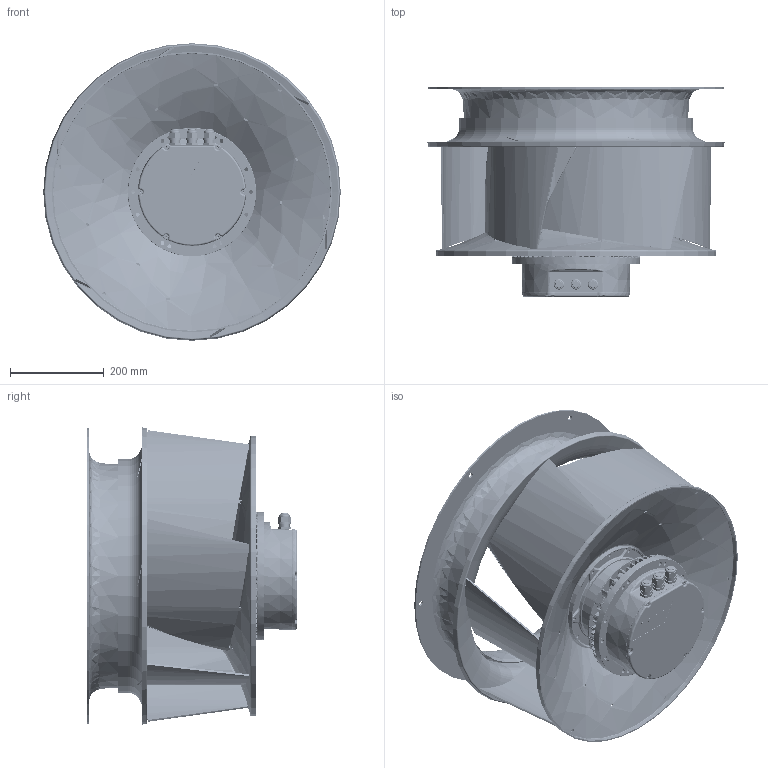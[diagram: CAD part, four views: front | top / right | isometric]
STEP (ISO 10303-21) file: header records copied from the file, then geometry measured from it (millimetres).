
FILE_DESCRIPTION((''),'2;1');
FILE_NAME('GTB063PUU38R_ASM','2021-12-06T10:07:36',('MINGHAN.CHUNG'),(''),'CREO PARAMETRIC BY PTC INC, 2018400','CREO PARAMETRIC BY PTC INC, 2018400','');
FILE_SCHEMA(('CONFIG_CONTROL_DESIGN'));
Products named in the file (18): BOTTOM_COVER__3145014400__02-35; BOTTOM_COVER__3145014400__02-57; G1--__0001; NEW_OD150_PILLOW__3KW_-HEATSINK; SHAFT__-930001; SHAFT__-1050001; SHAFT__-1150001; G1__0001; __0001; NEW_OD150_PILLOW__3KW__G3-6-154; NEW_OD150_PILLOW__3KW__G3-6-172; NEW_OD150_PILLOW__3KW__G3-6-184; OD150-G2-CD_ASM; PRT0001; NOZZLE-FINAL; BLADE-FINAL; 630-R48-FINAL_ASM; GTB063PUU38R_ASM
Assembly tree (24 placements, depth 3):
  GTB063PUU38R_ASM
    OD150-G2-CD_ASM
      BOTTOM_COVER__3145014400__02-35
      BOTTOM_COVER__3145014400__02-57
      G1--__0001
      NEW_OD150_PILLOW__3KW_-HEATSINK
      SHAFT__-930001
      SHAFT__-1050001
      SHAFT__-1150001
      G1__0001
      __0001  x3
      NEW_OD150_PILLOW__3KW__G3-6-154
      NEW_OD150_PILLOW__3KW__G3-6-172
      NEW_OD150_PILLOW__3KW__G3-6-184
    630-R48-FINAL_ASM
      PRT0001
      NOZZLE-FINAL
      BLADE-FINAL  x6
Bounding box: 636.06 x 448.05 x 636.06 mm (x, y, z)
Volume: 6115811.1 mm3; surface area: 3040346.3 mm2
Topology: 23 solids, 24 shells, 7985 faces, 20394 edges, 12133 vertices
Faces by surface type: bspline 2151, cylinder 1580, torus 1544, plane 1171, cone 754, sphere 527, extrusion 246, revolution 12
Entity records: 470875 total; most frequent: CARTESIAN_POINT 295529, ORIENTED_EDGE 38864, DIRECTION 35455, EDGE_CURVE 19432, AXIS2_PLACEMENT_3D 15641, VERTEX_POINT 11833, CIRCLE 10126, EDGE_LOOP 8173
